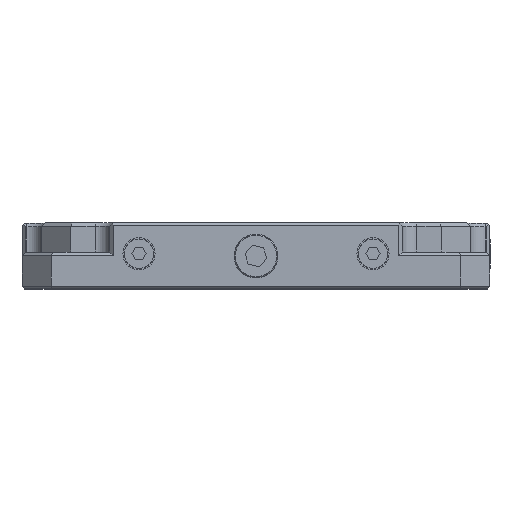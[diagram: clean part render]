
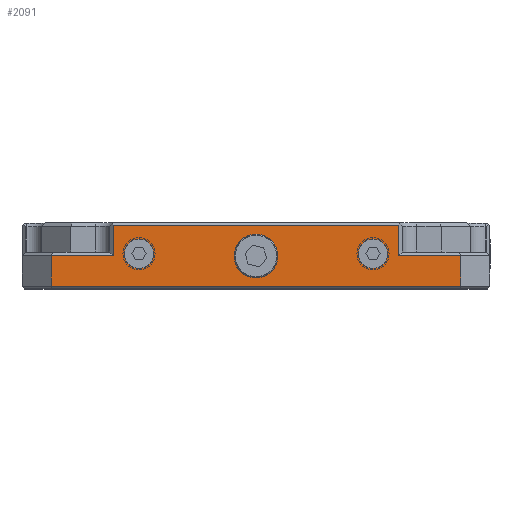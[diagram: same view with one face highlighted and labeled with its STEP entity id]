
A CAD part, top view. The second image highlights one B-rep face of the part: STEP entity #2091.
In plain terms, the highlighted planar face has unit normal (0, 0, 1).
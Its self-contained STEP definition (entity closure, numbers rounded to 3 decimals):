
#297 = DIRECTION ( 'NONE',  ( 0., -1., 0. ) ) ;
#489 = AXIS2_PLACEMENT_3D ( 'NONE', #18375, #16809, #3579 ) ;
#773 = VERTEX_POINT ( 'NONE', #6247 ) ;
#971 = CARTESIAN_POINT ( 'NONE',  ( 42., 14.3, 78. ) ) ;
#1034 = EDGE_CURVE ( 'NONE', #9699, #17586, #15115, .T. ) ;
#1165 = EDGE_CURVE ( 'NONE', #2179, #3171, #10504, .T. ) ;
#1339 = ORIENTED_EDGE ( 'NONE', *, *, #5039, .T. ) ;
#1528 = VECTOR ( 'NONE', #12585, 1000. ) ;
#2091 = ADVANCED_FACE ( 'NONE', ( #3309, #6306, #11933, #18114 ), #14911, .F. ) ;
#2179 = VERTEX_POINT ( 'NONE', #4072 ) ;
#2180 = DIRECTION ( 'NONE',  ( 1., 0., 0. ) ) ;
#2245 = DIRECTION ( 'NONE',  ( 0., 1., 0. ) ) ;
#2363 = AXIS2_PLACEMENT_3D ( 'NONE', #10946, #3588, #9679 ) ;
#2510 = CARTESIAN_POINT ( 'NONE',  ( -54., 14.3, 78. ) ) ;
#2774 = DIRECTION ( 'NONE',  ( 1., 0., 0. ) ) ;
#2929 = ORIENTED_EDGE ( 'NONE', *, *, #9622, .F. ) ;
#3171 = VERTEX_POINT ( 'NONE', #10838 ) ;
#3186 = CARTESIAN_POINT ( 'NONE',  ( -84., 1., 78. ) ) ;
#3309 = FACE_BOUND ( 'NONE', #15559, .T. ) ;
#3413 = CARTESIAN_POINT ( 'NONE',  ( -96., 27., 78. ) ) ;
#3513 = EDGE_CURVE ( 'NONE', #3673, #4241, #12938, .T. ) ;
#3579 = DIRECTION ( 'NONE',  ( 1., 0., 0. ) ) ;
#3588 = DIRECTION ( 'NONE',  ( 0., 0., 1. ) ) ;
#3673 = VERTEX_POINT ( 'NONE', #7320 ) ;
#3703 = CARTESIAN_POINT ( 'NONE',  ( 58.5, 27., 78. ) ) ;
#4072 = CARTESIAN_POINT ( 'NONE',  ( -58.5, 13.5, 78. ) ) ;
#4135 = EDGE_CURVE ( 'NONE', #17586, #9699, #18160, .T. ) ;
#4241 = VERTEX_POINT ( 'NONE', #19156 ) ;
#4496 = DIRECTION ( 'NONE',  ( 0., 0., 1. ) ) ;
#4540 = CARTESIAN_POINT ( 'NONE',  ( 84., 1., 78. ) ) ;
#4991 = AXIS2_PLACEMENT_3D ( 'NONE', #11771, #17463, #2774 ) ;
#5039 = EDGE_CURVE ( 'NONE', #3171, #12594, #14014, .T. ) ;
#5323 = EDGE_LOOP ( 'NONE', ( #10493, #2929 ) ) ;
#5971 = AXIS2_PLACEMENT_3D ( 'NONE', #3413, #6114, #18590 ) ;
#6103 = EDGE_CURVE ( 'NONE', #8842, #773, #6410, .T. ) ;
#6114 = DIRECTION ( 'NONE',  ( 0., 0., -1. ) ) ;
#6212 = EDGE_CURVE ( 'NONE', #4241, #8842, #8453, .T. ) ;
#6247 = CARTESIAN_POINT ( 'NONE',  ( -58.5, 26., 78. ) ) ;
#6306 = FACE_BOUND ( 'NONE', #5323, .T. ) ;
#6333 = EDGE_CURVE ( 'NONE', #11575, #9176, #12574, .T. ) ;
#6375 = ORIENTED_EDGE ( 'NONE', *, *, #4135, .F. ) ;
#6405 = CARTESIAN_POINT ( 'NONE',  ( 58.5, 26., 78. ) ) ;
#6410 = LINE ( 'NONE', #12319, #19055 ) ;
#6503 = CARTESIAN_POINT ( 'NONE',  ( -58.5, 15., 78. ) ) ;
#6787 = ORIENTED_EDGE ( 'NONE', *, *, #6103, .T. ) ;
#7030 = VECTOR ( 'NONE', #2180, 1000. ) ;
#7117 = CARTESIAN_POINT ( 'NONE',  ( -96., 13.5, 78. ) ) ;
#7320 = CARTESIAN_POINT ( 'NONE',  ( 84., 13.5, 78. ) ) ;
#7712 = CARTESIAN_POINT ( 'NONE',  ( -9.007, 13.347, 78. ) ) ;
#7866 = CARTESIAN_POINT ( 'NONE',  ( 84., 27., 78. ) ) ;
#8134 = EDGE_CURVE ( 'NONE', #773, #2179, #15182, .T. ) ;
#8453 = LINE ( 'NONE', #3703, #9794 ) ;
#8579 = VECTOR ( 'NONE', #17354, 1000. ) ;
#8660 = CIRCLE ( 'NONE', #9268, 6. ) ;
#8753 = EDGE_CURVE ( 'NONE', #9176, #11575, #8660, .T. ) ;
#8831 = EDGE_LOOP ( 'NONE', ( #1339, #14658, #16049, #10419, #16549, #6787, #10571, #16484 ) ) ;
#8842 = VERTEX_POINT ( 'NONE', #6405 ) ;
#8965 = VERTEX_POINT ( 'NONE', #971 ) ;
#8980 = VECTOR ( 'NONE', #17849, 1000. ) ;
#9167 = AXIS2_PLACEMENT_3D ( 'NONE', #15969, #13523, #10173 ) ;
#9176 = VERTEX_POINT ( 'NONE', #17991 ) ;
#9268 = AXIS2_PLACEMENT_3D ( 'NONE', #12729, #11259, #17143 ) ;
#9327 = CIRCLE ( 'NONE', #4991, 6. ) ;
#9622 = EDGE_CURVE ( 'NONE', #8965, #14598, #9327, .T. ) ;
#9679 = DIRECTION ( 'NONE',  ( 1., 0., 0. ) ) ;
#9699 = VERTEX_POINT ( 'NONE', #7712 ) ;
#9794 = VECTOR ( 'NONE', #2245, 1000. ) ;
#10173 = DIRECTION ( 'NONE',  ( 1., 0., 0. ) ) ;
#10419 = ORIENTED_EDGE ( 'NONE', *, *, #3513, .T. ) ;
#10493 = ORIENTED_EDGE ( 'NONE', *, *, #17123, .F. ) ;
#10504 = LINE ( 'NONE', #15208, #8980 ) ;
#10571 = ORIENTED_EDGE ( 'NONE', *, *, #8134, .T. ) ;
#10838 = CARTESIAN_POINT ( 'NONE',  ( -84., 13.5, 78. ) ) ;
#10946 = CARTESIAN_POINT ( 'NONE',  ( 48., 14.3, 78. ) ) ;
#11121 = CARTESIAN_POINT ( 'NONE',  ( -84., 27., 78. ) ) ;
#11259 = DIRECTION ( 'NONE',  ( 0., 0., 1. ) ) ;
#11301 = VECTOR ( 'NONE', #13744, 1000. ) ;
#11575 = VERTEX_POINT ( 'NONE', #2510 ) ;
#11771 = CARTESIAN_POINT ( 'NONE',  ( 48., 14.3, 78. ) ) ;
#11855 = CARTESIAN_POINT ( 'NONE',  ( -0.007, 13.347, 78. ) ) ;
#11933 = FACE_BOUND ( 'NONE', #15221, .T. ) ;
#12012 = LINE ( 'NONE', #7866, #11301 ) ;
#12054 = AXIS2_PLACEMENT_3D ( 'NONE', #11855, #4496, #16111 ) ;
#12319 = CARTESIAN_POINT ( 'NONE',  ( -58.5, 26., 78. ) ) ;
#12574 = CIRCLE ( 'NONE', #9167, 6. ) ;
#12585 = DIRECTION ( 'NONE',  ( 0., -1., 0. ) ) ;
#12594 = VERTEX_POINT ( 'NONE', #3186 ) ;
#12729 = CARTESIAN_POINT ( 'NONE',  ( -48., 14.3, 78. ) ) ;
#12938 = LINE ( 'NONE', #7117, #8579 ) ;
#13523 = DIRECTION ( 'NONE',  ( 0., 0., 1. ) ) ;
#13744 = DIRECTION ( 'NONE',  ( 0., 1., 0. ) ) ;
#13765 = VERTEX_POINT ( 'NONE', #4540 ) ;
#14014 = LINE ( 'NONE', #11121, #1528 ) ;
#14151 = ORIENTED_EDGE ( 'NONE', *, *, #6333, .F. ) ;
#14526 = VECTOR ( 'NONE', #297, 1000. ) ;
#14558 = ORIENTED_EDGE ( 'NONE', *, *, #1034, .F. ) ;
#14598 = VERTEX_POINT ( 'NONE', #14994 ) ;
#14658 = ORIENTED_EDGE ( 'NONE', *, *, #17704, .T. ) ;
#14713 = CIRCLE ( 'NONE', #2363, 6. ) ;
#14911 = PLANE ( 'NONE',  #5971 ) ;
#14994 = CARTESIAN_POINT ( 'NONE',  ( 54., 14.3, 78. ) ) ;
#15115 = CIRCLE ( 'NONE', #12054, 9. ) ;
#15131 = LINE ( 'NONE', #16583, #7030 ) ;
#15182 = LINE ( 'NONE', #6503, #14526 ) ;
#15208 = CARTESIAN_POINT ( 'NONE',  ( -96., 13.5, 78. ) ) ;
#15221 = EDGE_LOOP ( 'NONE', ( #6375, #14558 ) ) ;
#15490 = ORIENTED_EDGE ( 'NONE', *, *, #8753, .F. ) ;
#15559 = EDGE_LOOP ( 'NONE', ( #15490, #14151 ) ) ;
#15969 = CARTESIAN_POINT ( 'NONE',  ( -48., 14.3, 78. ) ) ;
#16049 = ORIENTED_EDGE ( 'NONE', *, *, #16963, .T. ) ;
#16111 = DIRECTION ( 'NONE',  ( 1., 0., 0. ) ) ;
#16455 = DIRECTION ( 'NONE',  ( -1., 0., 0. ) ) ;
#16484 = ORIENTED_EDGE ( 'NONE', *, *, #1165, .T. ) ;
#16549 = ORIENTED_EDGE ( 'NONE', *, *, #6212, .T. ) ;
#16583 = CARTESIAN_POINT ( 'NONE',  ( -96., 1., 78. ) ) ;
#16809 = DIRECTION ( 'NONE',  ( 0., 0., 1. ) ) ;
#16963 = EDGE_CURVE ( 'NONE', #13765, #3673, #12012, .T. ) ;
#17123 = EDGE_CURVE ( 'NONE', #14598, #8965, #14713, .T. ) ;
#17143 = DIRECTION ( 'NONE',  ( 1., 0., 0. ) ) ;
#17354 = DIRECTION ( 'NONE',  ( -1., 0., 0. ) ) ;
#17365 = CARTESIAN_POINT ( 'NONE',  ( 8.993, 13.347, 78. ) ) ;
#17463 = DIRECTION ( 'NONE',  ( 0., 0., 1. ) ) ;
#17586 = VERTEX_POINT ( 'NONE', #17365 ) ;
#17704 = EDGE_CURVE ( 'NONE', #12594, #13765, #15131, .T. ) ;
#17849 = DIRECTION ( 'NONE',  ( -1., 0., 0. ) ) ;
#17991 = CARTESIAN_POINT ( 'NONE',  ( -42., 14.3, 78. ) ) ;
#18114 = FACE_OUTER_BOUND ( 'NONE', #8831, .T. ) ;
#18160 = CIRCLE ( 'NONE', #489, 9. ) ;
#18375 = CARTESIAN_POINT ( 'NONE',  ( -0.007, 13.347, 78. ) ) ;
#18590 = DIRECTION ( 'NONE',  ( -1., 0., 0. ) ) ;
#19055 = VECTOR ( 'NONE', #16455, 1000. ) ;
#19156 = CARTESIAN_POINT ( 'NONE',  ( 58.5, 13.5, 78. ) ) ;
